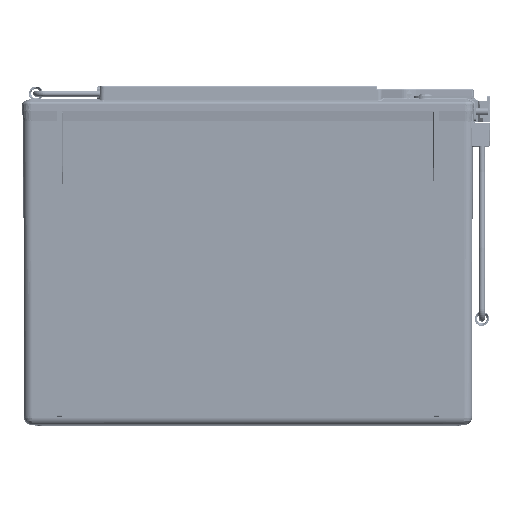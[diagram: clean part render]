
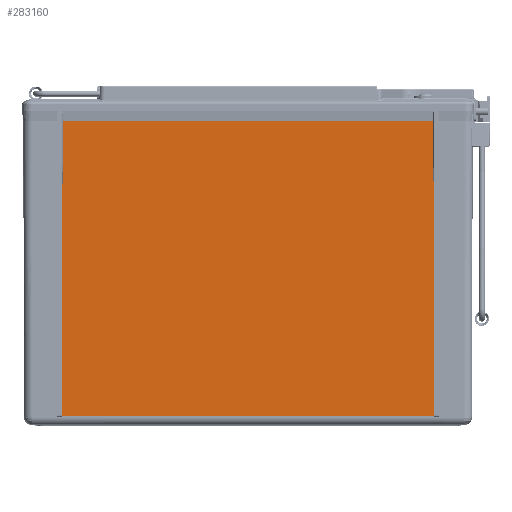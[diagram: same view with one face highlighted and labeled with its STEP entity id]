
A CAD part, top view. The second image highlights one B-rep face of the part: STEP entity #283160.
In plain terms, the highlighted planar face has unit normal (0, -0.002, 1).
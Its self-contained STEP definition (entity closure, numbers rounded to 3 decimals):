
#10949 = CARTESIAN_POINT ( 'NONE',  ( -6.175, -10.129, 2.068 ) ) ;
#12524 = DIRECTION ( 'NONE',  ( 0.001, 1., 0.002 ) ) ;
#12957 = PLANE ( 'NONE',  #124758 ) ;
#22463 = DIRECTION ( 'NONE',  ( -1., 0., 0. ) ) ;
#24050 = LINE ( 'NONE', #293381, #153191 ) ;
#29273 = VERTEX_POINT ( 'NONE', #244411 ) ;
#32081 = ORIENTED_EDGE ( 'NONE', *, *, #97909, .F. ) ;
#38176 = VERTEX_POINT ( 'NONE', #300289 ) ;
#48761 = ORIENTED_EDGE ( 'NONE', *, *, #66264, .T. ) ;
#66264 = EDGE_CURVE ( 'NONE', #29273, #38176, #164153, .T. ) ;
#79007 = VECTOR ( 'NONE', #162565, 39.37 ) ;
#89393 = VECTOR ( 'NONE', #12524, 39.37 ) ;
#97909 = EDGE_CURVE ( 'NONE', #270061, #182758, #233472, .T. ) ;
#114190 = CARTESIAN_POINT ( 'NONE',  ( 6.175, -10.129, 2.068 ) ) ;
#119507 = LINE ( 'NONE', #317841, #212518 ) ;
#124758 = AXIS2_PLACEMENT_3D ( 'NONE', #209756, #308095, #161380 ) ;
#126669 = CARTESIAN_POINT ( 'NONE',  ( -6.175, -10.129, 2.068 ) ) ;
#138980 = DIRECTION ( 'NONE',  ( 1., 0., 0. ) ) ;
#153191 = VECTOR ( 'NONE', #22463, 39.37 ) ;
#161380 = DIRECTION ( 'NONE',  ( -1., 0., 0. ) ) ;
#161722 = EDGE_LOOP ( 'NONE', ( #267780, #32081, #264851, #48761 ) ) ;
#162565 = DIRECTION ( 'NONE',  ( -0.001, 1., 0.002 ) ) ;
#164153 = LINE ( 'NONE', #114190, #79007 ) ;
#182758 = VERTEX_POINT ( 'NONE', #224285 ) ;
#192610 = EDGE_CURVE ( 'NONE', #270061, #29273, #119507, .T. ) ;
#200169 = EDGE_CURVE ( 'NONE', #38176, #182758, #24050, .T. ) ;
#209756 = CARTESIAN_POINT ( 'NONE',  ( 7.696, -0.354, 2.085 ) ) ;
#212518 = VECTOR ( 'NONE', #138980, 39.37 ) ;
#224285 = CARTESIAN_POINT ( 'NONE',  ( -6.161, -0.354, 2.085 ) ) ;
#233472 = LINE ( 'NONE', #10949, #89393 ) ;
#244411 = CARTESIAN_POINT ( 'NONE',  ( 6.175, -10.129, 2.068 ) ) ;
#258120 = FACE_OUTER_BOUND ( 'NONE', #161722, .T. ) ;
#264851 = ORIENTED_EDGE ( 'NONE', *, *, #192610, .T. ) ;
#267780 = ORIENTED_EDGE ( 'NONE', *, *, #200169, .T. ) ;
#270061 = VERTEX_POINT ( 'NONE', #126669 ) ;
#283160 = ADVANCED_FACE ( 'NONE', ( #258120 ), #12957, .T. ) ;
#293381 = CARTESIAN_POINT ( 'NONE',  ( 6.161, -0.354, 2.085 ) ) ;
#300289 = CARTESIAN_POINT ( 'NONE',  ( 6.161, -0.354, 2.085 ) ) ;
#308095 = DIRECTION ( 'NONE',  ( 0., -0.002, 1. ) ) ;
#317841 = CARTESIAN_POINT ( 'NONE',  ( -6.175, -10.129, 2.068 ) ) ;
